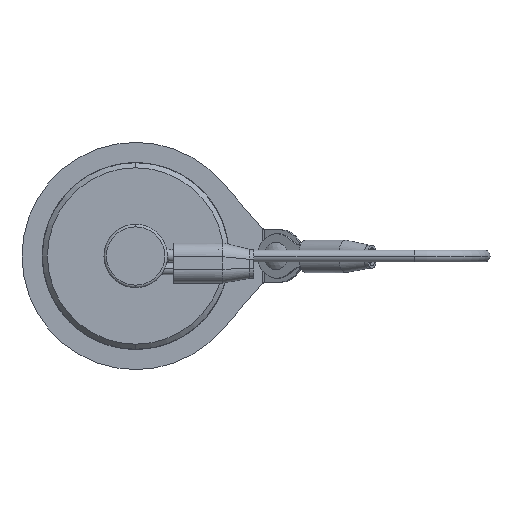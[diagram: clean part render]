
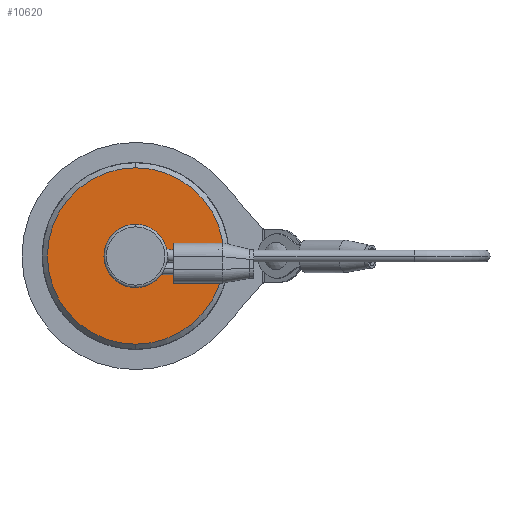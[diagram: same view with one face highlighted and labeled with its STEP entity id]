
A CAD part, left-side view. The second image highlights one B-rep face of the part: STEP entity #10620.
In plain terms, the highlighted planar face has unit normal (-1, 0, 0).
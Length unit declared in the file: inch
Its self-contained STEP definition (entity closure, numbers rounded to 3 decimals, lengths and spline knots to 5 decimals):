
#2930 = DIRECTION ( 'NONE',  ( 1., 0., 0. ) ) ;
#9106 = FACE_BOUND ( 'NONE', #73222, .T. ) ;
#10620 = ADVANCED_FACE ( 'NONE', ( #9106, #57533 ), #21815, .T. ) ;
#18793 = CARTESIAN_POINT ( 'NONE',  ( 0.25, 0., 0. ) ) ;
#20111 = DIRECTION ( 'NONE',  ( 0., 0., -1. ) ) ;
#20291 = VERTEX_POINT ( 'NONE', #72907 ) ;
#21815 = PLANE ( 'NONE',  #36483 ) ;
#23343 = VERTEX_POINT ( 'NONE', #44697 ) ;
#24816 = DIRECTION ( 'NONE',  ( 0., 0., -1. ) ) ;
#30740 = AXIS2_PLACEMENT_3D ( 'NONE', #18793, #53617, #20111 ) ;
#33272 = AXIS2_PLACEMENT_3D ( 'NONE', #66882, #74555, #24816 ) ;
#33427 = EDGE_CURVE ( 'NONE', #41070, #59502, #61703, .T. ) ;
#35815 = DIRECTION ( 'NONE',  ( 0., 0., 1. ) ) ;
#36483 = AXIS2_PLACEMENT_3D ( 'NONE', #50728, #70636, #35815 ) ;
#37488 = AXIS2_PLACEMENT_3D ( 'NONE', #64500, #44607, #64956 ) ;
#41070 = VERTEX_POINT ( 'NONE', #57205 ) ;
#41841 = ORIENTED_EDGE ( 'NONE', *, *, #33427, .T. ) ;
#44607 = DIRECTION ( 'NONE',  ( 1., 0., 0. ) ) ;
#44697 = CARTESIAN_POINT ( 'NONE',  ( 0.25, 0., -0.6955 ) ) ;
#45185 = CIRCLE ( 'NONE', #30740, 0.6955 ) ;
#45805 = EDGE_CURVE ( 'NONE', #59502, #41070, #46143, .T. ) ;
#46143 = CIRCLE ( 'NONE', #37488, 0.25 ) ;
#46996 = ORIENTED_EDGE ( 'NONE', *, *, #45805, .T. ) ;
#50728 = CARTESIAN_POINT ( 'NONE',  ( 0.25, 0.6955, 0. ) ) ;
#53617 = DIRECTION ( 'NONE',  ( 1., 0., 0. ) ) ;
#57205 = CARTESIAN_POINT ( 'NONE',  ( 0.25, 0., 0.25 ) ) ;
#57533 = FACE_OUTER_BOUND ( 'NONE', #62959, .T. ) ;
#59502 = VERTEX_POINT ( 'NONE', #75455 ) ;
#61703 = CIRCLE ( 'NONE', #64529, 0.25 ) ;
#62959 = EDGE_LOOP ( 'NONE', ( #64262, #74083 ) ) ;
#64262 = ORIENTED_EDGE ( 'NONE', *, *, #66957, .F. ) ;
#64500 = CARTESIAN_POINT ( 'NONE',  ( 0.25, 0., 0. ) ) ;
#64529 = AXIS2_PLACEMENT_3D ( 'NONE', #87085, #2930, #86642 ) ;
#64956 = DIRECTION ( 'NONE',  ( 0., 0., -1. ) ) ;
#66882 = CARTESIAN_POINT ( 'NONE',  ( 0.25, 0., 0. ) ) ;
#66957 = EDGE_CURVE ( 'NONE', #23343, #20291, #72274, .T. ) ;
#70636 = DIRECTION ( 'NONE',  ( -1., 0., 0. ) ) ;
#72274 = CIRCLE ( 'NONE', #33272, 0.6955 ) ;
#72907 = CARTESIAN_POINT ( 'NONE',  ( 0.25, 0., 0.6955 ) ) ;
#73222 = EDGE_LOOP ( 'NONE', ( #46996, #41841 ) ) ;
#74083 = ORIENTED_EDGE ( 'NONE', *, *, #81386, .F. ) ;
#74555 = DIRECTION ( 'NONE',  ( 1., 0., 0. ) ) ;
#75455 = CARTESIAN_POINT ( 'NONE',  ( 0.25, 0., -0.25 ) ) ;
#81386 = EDGE_CURVE ( 'NONE', #20291, #23343, #45185, .T. ) ;
#86642 = DIRECTION ( 'NONE',  ( 0., 0., -1. ) ) ;
#87085 = CARTESIAN_POINT ( 'NONE',  ( 0.25, 0., 0. ) ) ;
